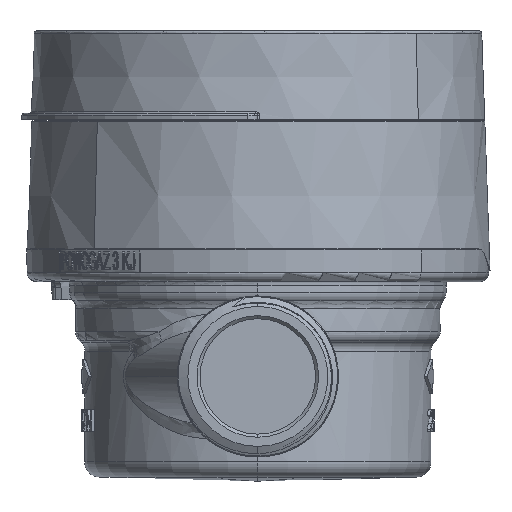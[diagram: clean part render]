
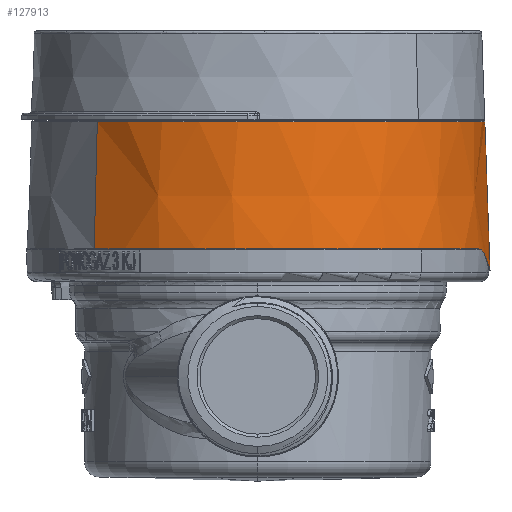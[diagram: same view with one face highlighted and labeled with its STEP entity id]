
A CAD part, left-side view. The second image highlights one B-rep face of the part: STEP entity #127913.
In plain terms, the highlighted conical face has half-angle 2 degrees and reference radius 37.9 mm.
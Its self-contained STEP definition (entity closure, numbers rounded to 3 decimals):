
#323 = ORIENTED_EDGE ( 'NONE', *, *, #41841, .T. ) ;
#1211 = CARTESIAN_POINT ( 'NONE',  ( -37.9, 8.9, 0. ) ) ;
#1325 = DIRECTION ( 'NONE',  ( 0., 1., 0. ) ) ;
#1430 = ORIENTED_EDGE ( 'NONE', *, *, #9335, .T. ) ;
#1967 = DIRECTION ( 'NONE',  ( -0.035, -0.999, 0. ) ) ;
#6998 = VECTOR ( 'NONE', #1967, 1000. ) ;
#8215 = AXIS2_PLACEMENT_3D ( 'NONE', #98106, #134013, #96559 ) ;
#8835 = AXIS2_PLACEMENT_3D ( 'NONE', #57915, #105565, #153136 ) ;
#9335 = EDGE_CURVE ( 'NONE', #51251, #140320, #65675, .T. ) ;
#10235 = FACE_OUTER_BOUND ( 'NONE', #14291, .T. ) ;
#13293 = CARTESIAN_POINT ( 'NONE',  ( 24.403, 0.669, 29.374 ) ) ;
#14291 = EDGE_LOOP ( 'NONE', ( #29931, #91832, #119965, #135038, #1430, #55769, #323, #52121 ) ) ;
#14590 = DIRECTION ( 'NONE',  ( -1., 0., 0. ) ) ;
#16097 = CARTESIAN_POINT ( 'NONE',  ( 20.892, 2.696, 31.881 ) ) ;
#16955 = CARTESIAN_POINT ( 'NONE',  ( 24.642, 0.552, 29.18 ) ) ;
#17951 = CARTESIAN_POINT ( 'NONE',  ( 24.17, 0.804, 29.559 ) ) ;
#22065 = DIRECTION ( 'NONE',  ( 0.025, -0.999, 0.025 ) ) ;
#22449 = DIRECTION ( 'NONE',  ( 1., 0., 0. ) ) ;
#24766 = CARTESIAN_POINT ( 'NONE',  ( 18.157, 3.5, 33.484 ) ) ;
#25813 = CARTESIAN_POINT ( 'NONE',  ( 27.019, 0.002, 27.019 ) ) ;
#26124 = VERTEX_POINT ( 'NONE', #104780 ) ;
#27074 = CARTESIAN_POINT ( 'NONE',  ( 18.945, 3.413, 33.047 ) ) ;
#27819 = VERTEX_POINT ( 'NONE', #54894 ) ;
#29931 = ORIENTED_EDGE ( 'NONE', *, *, #148635, .T. ) ;
#30196 = CARTESIAN_POINT ( 'NONE',  ( 25.364, 0.273, 28.568 ) ) ;
#30315 = CIRCLE ( 'NONE', #52880, 37.357 ) ;
#33807 = LINE ( 'NONE', #81428, #65910 ) ;
#34623 = CARTESIAN_POINT ( 'NONE',  ( 20.892, 2.696, 31.881 ) ) ;
#35710 = CARTESIAN_POINT ( 'NONE',  ( 0., 24.457, 0. ) ) ;
#36501 = CARTESIAN_POINT ( 'NONE',  ( 0., 3.5, 0. ) ) ;
#39554 = CARTESIAN_POINT ( 'NONE',  ( 18.424, 3.482, 33.338 ) ) ;
#41841 = EDGE_CURVE ( 'NONE', #108969, #27819, #83835, .T. ) ;
#47750 = CARTESIAN_POINT ( 'NONE',  ( 20.892, 2.696, 31.881 ) ) ;
#51251 = VERTEX_POINT ( 'NONE', #82017 ) ;
#52121 = ORIENTED_EDGE ( 'NONE', *, *, #126160, .F. ) ;
#52880 = AXIS2_PLACEMENT_3D ( 'NONE', #35710, #82570, #22449 ) ;
#54894 = CARTESIAN_POINT ( 'NONE',  ( 27.019, 0.002, 27.019 ) ) ;
#55769 = ORIENTED_EDGE ( 'NONE', *, *, #143766, .T. ) ;
#57915 = CARTESIAN_POINT ( 'NONE',  ( 0., 8.9, 0. ) ) ;
#64011 =( BOUNDED_CURVE ( )  B_SPLINE_CURVE ( 3, ( #47750, #71918, #128971, #107141 ),
 .UNSPECIFIED., .F., .F. ) 
 B_SPLINE_CURVE_WITH_KNOTS ( ( 4, 4 ),
 ( 5.276, 5.382 ),
 .UNSPECIFIED. ) 
 CURVE ( )  GEOMETRIC_REPRESENTATION_ITEM ( )  RATIONAL_B_SPLINE_CURVE ( ( 1., 0.999, 0.999, 1. ) ) 
 REPRESENTATION_ITEM ( '' )  );
#65429 = EDGE_CURVE ( 'NONE', #100144, #98553, #30315, .T. ) ;
#65675 = B_SPLINE_CURVE_WITH_KNOTS ( 'NONE', 3,
 ( #109140, #24766, #39554, #27074, #75441, #96621, #72360, #16097 ),
 .UNSPECIFIED., .F., .F.,
 ( 4, 2, 2, 4 ),
 ( 0.008, 0.009, 0.01, 0.012 ),
 .UNSPECIFIED. ) ;
#65910 = VECTOR ( 'NONE', #22065, 1000. ) ;
#71477 = EDGE_CURVE ( 'NONE', #26124, #51251, #143763, .T. ) ;
#71918 = CARTESIAN_POINT ( 'NONE',  ( 22.026, 2.042, 31.166 ) ) ;
#72360 = CARTESIAN_POINT ( 'NONE',  ( 20.432, 2.962, 32.172 ) ) ;
#75441 = CARTESIAN_POINT ( 'NONE',  ( 19.201, 3.361, 32.902 ) ) ;
#76185 = CONICAL_SURFACE ( 'NONE', #8835, 37.9, 0.035 ) ;
#77814 = CARTESIAN_POINT ( 'NONE',  ( 26.08, 0.079, 27.93 ) ) ;
#81428 = CARTESIAN_POINT ( 'NONE',  ( 26.799, 8.9, 26.799 ) ) ;
#82017 = CARTESIAN_POINT ( 'NONE',  ( 17.892, 3.5, 33.624 ) ) ;
#82570 = DIRECTION ( 'NONE',  ( 0., -1., 0. ) ) ;
#83835 = B_SPLINE_CURVE_WITH_KNOTS ( 'NONE', 3,
 ( #89551, #13293, #16955, #108633, #30196, #77814, #125484, #25813 ),
 .UNSPECIFIED., .F., .F.,
 ( 4, 2, 2, 4 ),
 ( 0.012, 0.013, 0.014, 0.016 ),
 .UNSPECIFIED. ) ;
#83930 = CARTESIAN_POINT ( 'NONE',  ( 0., 24.457, 37.357 ) ) ;
#89551 = CARTESIAN_POINT ( 'NONE',  ( 24.17, 0.804, 29.559 ) ) ;
#91832 = ORIENTED_EDGE ( 'NONE', *, *, #65429, .T. ) ;
#96559 = DIRECTION ( 'NONE',  ( 1., 0., 0. ) ) ;
#96621 = CARTESIAN_POINT ( 'NONE',  ( 19.951, 3.159, 32.464 ) ) ;
#98106 = CARTESIAN_POINT ( 'NONE',  ( 0., 24.457, 0. ) ) ;
#98553 = VERTEX_POINT ( 'NONE', #136908 ) ;
#99991 = VERTEX_POINT ( 'NONE', #112998 ) ;
#100144 = VERTEX_POINT ( 'NONE', #83930 ) ;
#103890 = AXIS2_PLACEMENT_3D ( 'NONE', #36501, #1325, #14590 ) ;
#104780 = CARTESIAN_POINT ( 'NONE',  ( -38.089, 3.5, 0. ) ) ;
#105565 = DIRECTION ( 'NONE',  ( 0., -1., 0. ) ) ;
#105595 = CIRCLE ( 'NONE', #8215, 37.357 ) ;
#107141 = CARTESIAN_POINT ( 'NONE',  ( 24.17, 0.804, 29.559 ) ) ;
#108633 = CARTESIAN_POINT ( 'NONE',  ( 25.124, 0.354, 28.775 ) ) ;
#108969 = VERTEX_POINT ( 'NONE', #17951 ) ;
#109140 = CARTESIAN_POINT ( 'NONE',  ( 17.892, 3.5, 33.624 ) ) ;
#112796 = EDGE_CURVE ( 'NONE', #98553, #26124, #139905, .T. ) ;
#112998 = CARTESIAN_POINT ( 'NONE',  ( 26.415, 24.457, 26.415 ) ) ;
#119965 = ORIENTED_EDGE ( 'NONE', *, *, #112796, .T. ) ;
#125484 = CARTESIAN_POINT ( 'NONE',  ( 26.553, 0.014, 27.485 ) ) ;
#126160 = EDGE_CURVE ( 'NONE', #99991, #27819, #33807, .T. ) ;
#127913 = ADVANCED_FACE ( 'NONE', ( #10235 ), #76185, .T. ) ;
#128971 = CARTESIAN_POINT ( 'NONE',  ( 23.119, 1.41, 30.391 ) ) ;
#134013 = DIRECTION ( 'NONE',  ( 0., -1., 0. ) ) ;
#135038 = ORIENTED_EDGE ( 'NONE', *, *, #71477, .T. ) ;
#136908 = CARTESIAN_POINT ( 'NONE',  ( -37.357, 24.457, 0. ) ) ;
#139905 = LINE ( 'NONE', #1211, #6998 ) ;
#140320 = VERTEX_POINT ( 'NONE', #34623 ) ;
#143763 = CIRCLE ( 'NONE', #103890, 38.089 ) ;
#143766 = EDGE_CURVE ( 'NONE', #140320, #108969, #64011, .T. ) ;
#148635 = EDGE_CURVE ( 'NONE', #99991, #100144, #105595, .T. ) ;
#153136 = DIRECTION ( 'NONE',  ( -1., 0., 0. ) ) ;
